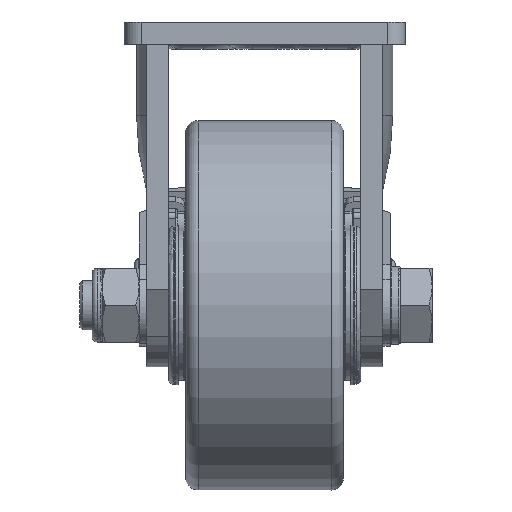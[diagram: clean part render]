
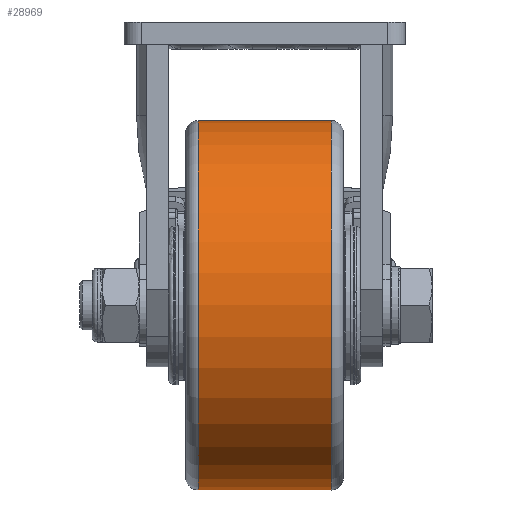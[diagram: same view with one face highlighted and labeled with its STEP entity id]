
A CAD part, left-side view. The second image highlights one B-rep face of the part: STEP entity #28969.
In plain terms, the highlighted cylindrical face has radius 74.999 mm (diameter 149.998 mm), a full revolution.
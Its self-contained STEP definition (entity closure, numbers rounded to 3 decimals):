
#6044=CYLINDRICAL_SURFACE('',#30775,74.999);
#6674=FACE_BOUND('',#8728,.T.);
#6960=FACE_OUTER_BOUND('',#8727,.T.);
#8727=EDGE_LOOP('',(#19416));
#8728=EDGE_LOOP('',(#19417));
#10758=CIRCLE('',#30768,74.999);
#10760=CIRCLE('',#30772,74.999);
#11978=VERTEX_POINT('',#40680);
#11981=VERTEX_POINT('',#40690);
#14914=EDGE_CURVE('',#11978,#11978,#10758,.T.);
#14919=EDGE_CURVE('',#11981,#11981,#10760,.T.);
#19416=ORIENTED_EDGE('',*,*,#14919,.T.);
#19417=ORIENTED_EDGE('',*,*,#14914,.F.);
#28969=ADVANCED_FACE('',(#6960,#6674),#6044,.T.);
#30768=AXIS2_PLACEMENT_3D('',#40681,#33361,#33362);
#30772=AXIS2_PLACEMENT_3D('',#40691,#33372,#33373);
#30775=AXIS2_PLACEMENT_3D('',#40699,#33381,#33382);
#33361=DIRECTION('center_axis',(0.,1.,0.));
#33362=DIRECTION('ref_axis',(1.,0.,0.));
#33372=DIRECTION('center_axis',(0.,1.,0.));
#33373=DIRECTION('ref_axis',(1.,0.,0.));
#33381=DIRECTION('center_axis',(0.,1.,0.));
#33382=DIRECTION('ref_axis',(0.,0.,1.));
#40680=CARTESIAN_POINT('',(-1.,27.,-35.501));
#40681=CARTESIAN_POINT('Origin',(-1.,27.,-110.5));
#40690=CARTESIAN_POINT('',(-1.,-27.,-35.501));
#40691=CARTESIAN_POINT('Origin',(-1.,-27.,-110.5));
#40699=CARTESIAN_POINT('Origin',(-1.,0.,
-110.5));
